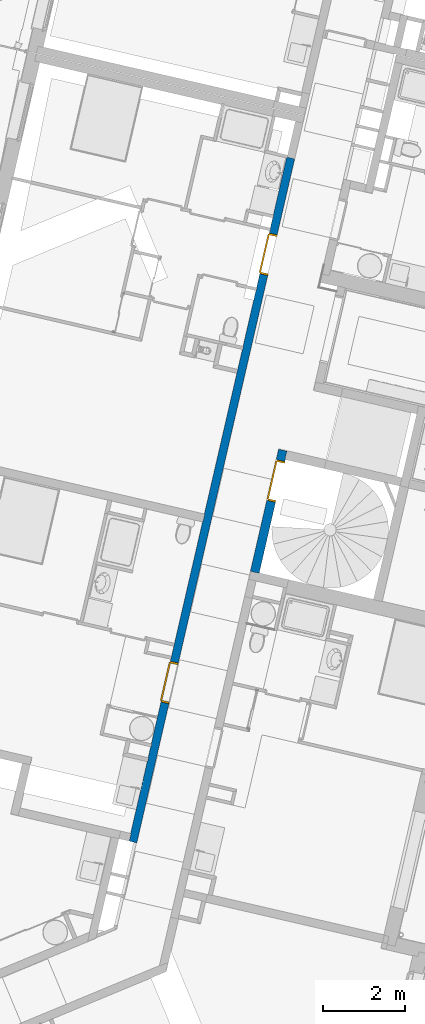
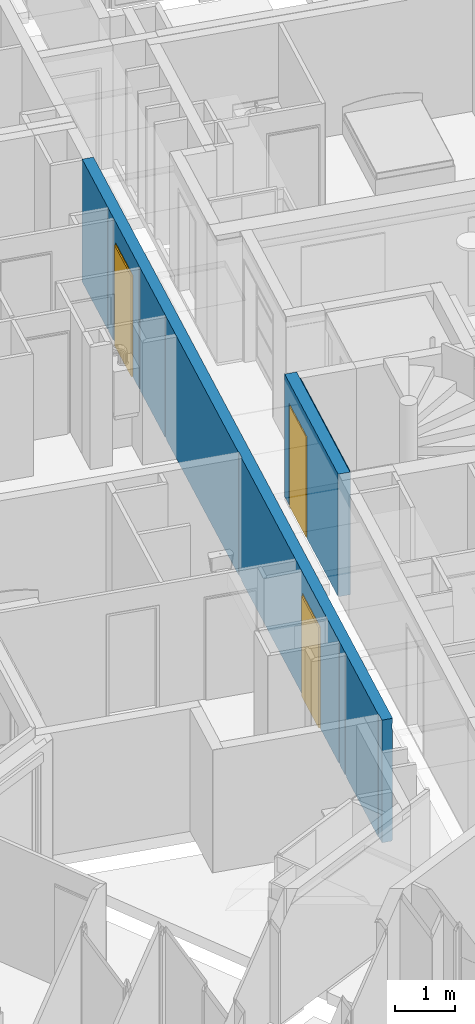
# One storey, part 19 of 119: 3 doors, 2 walls, 3 openings.
"""IFC2X3 building model written with IfcOpenShell, lengths in metres."""

import ifcopenshell
import ifcopenshell.guid

model = None  # the IFC model being written
_history = None  # IfcOwnerHistory: only IFC2X3 demands one
_inside = {}  # id of a spatial element -> (the spatial element, [elements in it])
_under = {}  # id of a project, library or spatial element -> (it, [spatial elements below it])
_declared = {}  # id of a project -> (the project, [libraries it declares])
_typed = {}  # id of a type object -> (the type object, [elements of that type])
_made_of = {}  # id of a material, layer set ... -> (it, [elements and type objects made of it])


def new_model(schema):
    """Start an empty IFC model of exactly this schema.

    Asked for "IFC4X3", IfcOpenShell would pick the latest addendum, in which some entities
    have other attributes; the version numbers below select the first issue.
    IFC2X3 requires an IfcOwnerHistory on every rooted entity: one is made here for all.
    """
    global model, _history
    if schema == "IFC4X3":
        model = ifcopenshell.file(schema_version=(4, 3, 0, 0))
    else:
        model = ifcopenshell.file(schema=schema)
    _inside.clear()
    _under.clear()
    _declared.clear()
    _typed.clear()
    _made_of.clear()
    _history = None
    if model.schema == "IFC2X3":
        org = make("IfcOrganization", Name="unknown")
        user = make(
            "IfcPersonAndOrganization",
            ThePerson=make("IfcPerson", FamilyName="unknown"),
            TheOrganization=org,
        )
        app = make(
            "IfcApplication",
            ApplicationDeveloper=org,
            Version="unknown",
            ApplicationFullName="unknown",
            ApplicationIdentifier="unknown",
        )
        _history = make(
            "IfcOwnerHistory",
            OwningUser=user,
            OwningApplication=app,
            ChangeAction="ADDED",
            CreationDate=0,
        )
    return model


def make(cls, **values):
    """One entity of the class cls with the attributes given. An attribute that is None is left unset."""
    return model.create_entity(
        cls, **{name: value for name, value in values.items() if value is not None}
    )


def entity(cls, *values):
    """Any entity or typed value of the class cls, its attributes in the order of the schema. None: left unset."""
    e = model.create_entity(cls)
    for i, value in enumerate(values):
        if value is not None:
            e[i] = value
    return e


def rooted(cls, **values):
    """An entity with a GlobalId (a new one), such as an element, a storey or a relation."""
    return make(cls, GlobalId=ifcopenshell.guid.new(), OwnerHistory=_history, **values)


def si_unit(unit_type, name, prefix=None):
    """IfcSIUnit, for example si_unit("LENGTHUNIT", "METRE", prefix="MILLI")."""
    return make("IfcSIUnit", UnitType=unit_type, Prefix=prefix, Name=name)


def converted_unit(unit_type, name, factor, base, dimensions=None, offset=None):
    """IfcConversionBasedUnit, such as the inch: factor (a typed value) times the base unit."""
    return make(
        "IfcConversionBasedUnit"
        if offset is None
        else "IfcConversionBasedUnitWithOffset",
        ConversionOffset=offset,
        Dimensions=None
        if dimensions is None
        else entity("IfcDimensionalExponents", *dimensions),
        UnitType=unit_type,
        Name=name,
        ConversionFactor=make(
            "IfcMeasureWithUnit", ValueComponent=factor, UnitComponent=base
        ),
    )


def derived_unit(unit_type, elements):
    """IfcDerivedUnit: a product of units, each with its exponent."""
    return make(
        "IfcDerivedUnit",
        Elements=[
            make("IfcDerivedUnitElement", Unit=unit, Exponent=power)
            for unit, power in elements
        ],
        UnitType=unit_type,
    )


def money_unit(currency):
    """IfcMonetaryUnit."""
    return make("IfcMonetaryUnit", Currency=currency)


def assignment(units):
    """IfcUnitAssignment: the units of a project."""
    return None if units is None else make("IfcUnitAssignment", Units=units)


def point(xyz):
    """IfcCartesianPoint."""
    return None if xyz is None else make("IfcCartesianPoint", Coordinates=xyz)


def direction(xyz):
    """IfcDirection."""
    return None if xyz is None else make("IfcDirection", DirectionRatios=xyz)


def frame(location, z_axis=None, x_axis=None):
    """IfcAxis2Placement3D, a coordinate frame: its origin and axes. An axis left out is left unset."""
    return make(
        "IfcAxis2Placement3D",
        Location=point(location),
        Axis=direction(z_axis),
        RefDirection=direction(x_axis),
    )


def origin_with_axes():
    """The frame at (0, 0, 0) with the z axis (0, 0, 1) and the x axis (1, 0, 0) written out."""
    return frame((0.0, 0.0, 0.0), z_axis=(0.0, 0.0, 1.0), x_axis=(1.0, 0.0, 0.0))


def place(relative_to, where):
    """IfcLocalPlacement: puts the frame where relative to a parent placement (None: the world)."""
    return make(
        "IfcLocalPlacement", PlacementRelTo=relative_to, RelativePlacement=where
    )


def context(
    kind, dimensions, precision=None, world=None, true_north=None, identifier=None
):
    """IfcGeometricRepresentationContext, for example the 3D "Model" context."""
    return make(
        "IfcGeometricRepresentationContext",
        ContextIdentifier=identifier,
        ContextType=kind,
        CoordinateSpaceDimension=dimensions,
        Precision=precision,
        WorldCoordinateSystem=world,
        TrueNorth=true_north,
    )


def subcontext(parent, identifier, kind, view, scale=None):
    """IfcGeometricRepresentationSubContext, for example "Body" below "Model"."""
    return make(
        "IfcGeometricRepresentationSubContext",
        ContextIdentifier=identifier,
        ContextType=kind,
        ParentContext=parent,
        TargetScale=scale,
        TargetView=view,
    )


def project(units=None, contexts=None):
    """IfcProject with its units and contexts."""
    return rooted(
        "IfcProject",
        Name="project",
        RepresentationContexts=contexts,
        UnitsInContext=assignment(units),
    )


def spatial(cls, under=None, at=None, **own):
    """A site, building, storey or space (cls), placed at a placement, below another one or the project."""
    s = rooted(cls, ObjectPlacement=at, **own)
    if under is not None:
        _under.setdefault(under.id(), (under, []))[1].append(s)
    return s


def faces_of(points, faces, orient=None, outer=None):
    """IfcFace entities. A face is a list of loops; a loop is a list of indices into points, from 0.

    orient and outer hold one flag for each loop. By default every Orientation is true, the
    first loop of a face is its IfcFaceOuterBound and the others are IfcFaceBound.
    """
    made = []
    for i, loops in enumerate(faces):
        bounds = []
        for j, loop in enumerate(loops):
            is_outer = j == 0 if outer is None else outer[i][j]
            bounds.append(
                make(
                    "IfcFaceOuterBound" if is_outer else "IfcFaceBound",
                    Bound=make("IfcPolyLoop", Polygon=[points[k] for k in loop]),
                    Orientation=True if orient is None else orient[i][j],
                )
            )
        made.append(make("IfcFace", Bounds=bounds))
    return made


def faceted_brep(points, faces, orient=None, outer=None, voids=None):
    """IfcFacetedBrep: a solid bounded by flat faces; with voids (closed shells), ...WithVoids."""
    shared = [point(p) for p in points]
    hull = make("IfcClosedShell", CfsFaces=faces_of(shared, faces, orient, outer))
    if voids is None:
        return make("IfcFacetedBrep", Outer=hull)
    return make(
        "IfcFacetedBrepWithVoids",
        Outer=hull,
        Voids=[
            make(cls, CfsFaces=faces_of(shared, fs, o, b)) for cls, fs, o, b in voids
        ],
    )


def shape(context_of_items, identifier, shape_type, items):
    """IfcShapeRepresentation: the items that make up one representation, for example the "Body"."""
    return make(
        "IfcShapeRepresentation",
        ContextOfItems=context_of_items,
        RepresentationIdentifier=identifier,
        RepresentationType=shape_type,
        Items=items,
    )


def source(mapping_origin, context_of_items, identifier, shape_type, items):
    """IfcRepresentationMap: a shape defined once, which mapped items show again and again."""
    return make(
        "IfcRepresentationMap",
        MappingOrigin=mapping_origin,
        MappedRepresentation=shape(context_of_items, identifier, shape_type, items),
    )


def transform(
    local_origin,
    x_axis=None,
    y_axis=None,
    z_axis=None,
    scale=None,
    scale2=None,
    scale3=None,
    uniform=True,
):
    """IfcCartesianTransformationOperator3D, or its non-uniform kind. x_axis, y_axis, z_axis: its Axis1, 2, 3."""
    if uniform:
        return make(
            "IfcCartesianTransformationOperator3D",
            Axis1=direction(x_axis),
            Axis2=direction(y_axis),
            LocalOrigin=point(local_origin),
            Scale=scale,
            Axis3=direction(z_axis),
        )
    return make(
        "IfcCartesianTransformationOperator3DnonUniform",
        Axis1=direction(x_axis),
        Axis2=direction(y_axis),
        LocalOrigin=point(local_origin),
        Scale=scale,
        Axis3=direction(z_axis),
        Scale2=scale2,
        Scale3=scale3,
    )


def mapped(mapping_source, mapping_target):
    """IfcMappedItem: shows the shape of a source again, moved by a transform."""
    return make(
        "IfcMappedItem", MappingSource=mapping_source, MappingTarget=mapping_target
    )


def material(Name=None, Category=None):
    """IfcMaterial."""
    return make("IfcMaterial", Name=Name, Category=Category)


def material_list(materials):
    """IfcMaterialList."""
    return make("IfcMaterialList", Materials=materials)


def made_of(thing, what):
    """Note that an element or type object is made of a material, layer set ...; save() writes the relation."""
    if what is not None:
        _made_of.setdefault(what.id(), (what, []))[1].append(thing)
    return thing


def type_object(cls, material=None, **own):
    """A type object (cls), such as IfcWallType, which elements share."""
    return made_of(rooted(cls, **own), material)


def element(
    cls,
    number,
    at=None,
    inside=None,
    cuts=None,
    type_object=None,
    material=None,
    context=None,
    identifier="Body",
    shape_type=None,
    held_by="IfcProductDefinitionShape",
    body=None,
    shapes=None,
    **own,
):
    """One element of the class cls, such as IfcWall. Its Tag is "e" and its number.

    at: its placement. inside: the storey or other place that contains it. cuts: it is an
    opening in that element (IfcRelVoidsElement). A single representation is given by context,
    identifier, shape_type and body (its items); several are given by shapes. held_by: the class
    of the entity that holds the representations. save() writes the other relations.
    """
    e = rooted(cls, Tag="e%d" % number, ObjectPlacement=at, **own)
    if body is not None:
        shapes = [shape(context, identifier, shape_type, body)]
    if shapes is not None:
        e.Representation = make(held_by, Representations=shapes)
    if inside is not None:
        _inside.setdefault(inside.id(), (inside, []))[1].append(e)
    if cuts is not None:
        rooted(
            "IfcRelVoidsElement", RelatingBuildingElement=cuts, RelatedOpeningElement=e
        )
    if type_object is not None:
        _typed.setdefault(type_object.id(), (type_object, []))[1].append(e)
    return made_of(e, material)


def fill(opening, filler):
    """IfcRelFillsElement: the door or window that sits in an opening."""
    return rooted(
        "IfcRelFillsElement",
        RelatingOpeningElement=opening,
        RelatedBuildingElement=filler,
    )


def aggregate(whole, parts):
    """IfcRelAggregates: a whole, such as a stair, and the parts it consists of."""
    return rooted("IfcRelAggregates", RelatingObject=whole, RelatedObjects=parts)


def save(model, path):
    """Write the relations noted so far, then the file.

    IfcRelAggregates (storeys below a building ...), IfcRelContainedInSpatialStructure (elements
    in a storey), IfcRelDefinesByType, IfcRelAssociatesMaterial and IfcRelDeclares: one each for
    every whole, place, type object, material and project.
    """
    for whole, parts in _under.values():
        aggregate(whole, parts)
    for where, things in _inside.values():
        rooted(
            "IfcRelContainedInSpatialStructure",
            RelatedElements=things,
            RelatingStructure=where,
        )
    for kind, things in _typed.values():
        rooted("IfcRelDefinesByType", RelatedObjects=things, RelatingType=kind)
    for what, things in _made_of.values():
        rooted("IfcRelAssociatesMaterial", RelatedObjects=things, RelatingMaterial=what)
    for by, libraries in _declared.values():
        rooted("IfcRelDeclares", RelatingContext=by, RelatedDefinitions=libraries)
    model.write(path)


model = new_model("IFC2X3")

# Units and contexts
model_context = context("Model", 3, precision=1e-05, world=origin_with_axes(), true_north=direction((0.0, 1.0)))
body_context = subcontext(model_context, "Body", "Model", "MODEL_VIEW")
ifc_project = project(units=[si_unit("LENGTHUNIT", "METRE"), si_unit("AREAUNIT", "SQUARE_METRE"), si_unit("VOLUMEUNIT", "CUBIC_METRE"), converted_unit("PLANEANGLEUNIT", "DEGREE", entity("IfcPlaneAngleMeasure", 0.0174532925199), si_unit("PLANEANGLEUNIT", "RADIAN"), dimensions=[0, 0, 0, 0, 0, 0, 0]), si_unit("SOLIDANGLEUNIT", "STERADIAN"), money_unit("EUR"), converted_unit("TIMEUNIT", "Year", entity("IfcTimeMeasure", 31556926.0), si_unit("TIMEUNIT", "SECOND"), dimensions=[0, 0, 1, 0, 0, 0, 0]), si_unit("MASSUNIT", "GRAM", prefix="KILO"), si_unit("THERMODYNAMICTEMPERATUREUNIT", "DEGREE_CELSIUS"), si_unit("LUMINOUSINTENSITYUNIT", "LUMEN"), si_unit("ENERGYUNIT", "JOULE", prefix="MEGA"), derived_unit("THERMALCONDUCTANCEUNIT", [(si_unit("POWERUNIT", "WATT"), 1), (si_unit("LENGTHUNIT", "METRE"), -1), (si_unit("THERMODYNAMICTEMPERATUREUNIT", "KELVIN"), -1)]), derived_unit("SPECIFICHEATCAPACITYUNIT", [(si_unit("ENERGYUNIT", "JOULE"), 1), (si_unit("MASSUNIT", "GRAM", prefix="KILO"), -1), (si_unit("THERMODYNAMICTEMPERATUREUNIT", "KELVIN"), -1)]), derived_unit("MASSDENSITYUNIT", [(si_unit("MASSUNIT", "GRAM", prefix="KILO"), 1), (si_unit("VOLUMEUNIT", "CUBIC_METRE"), -1)])], contexts=[model_context])

# Site, building, storey
site_placement = place(None, origin_with_axes())
site = spatial("IfcSite", under=ifc_project, at=site_placement, Name="Site", CompositionType="ELEMENT")
building_placement = place(site_placement, origin_with_axes())
building = spatial("IfcBuilding", under=site, at=building_placement, Name="Bâtiment", CompositionType="ELEMENT")
storey_placement = place(building_placement, origin_with_axes())
storey = spatial("IfcBuildingStorey", under=building, at=storey_placement, Name="Rez-de-chaussée", CompositionType="ELEMENT", Elevation=0.0)

# Wall, openings, doors
ifc_material_1 = material(Name="Finition int - Enduit plâtre")
ifc_material_2 = material(Name="Béton")
ifc_material_list = material_list([ifc_material_1, ifc_material_2, ifc_material_1])
wall_type_1 = type_object("IfcWallType", Name="2 - Murs Béton 18 + Enduit 2 Faces 200", PredefinedType="USERDEFINED")
wall_1_placement = place(storey_placement, frame((-10.404385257, 1.37535274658, 0.0), z_axis=(0.0, 0.0, 1.0), x_axis=(-0.22487619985, -0.974387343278, 0.0)))
wall_1 = element("IfcWall", 1, at=wall_1_placement, inside=storey, type_object=wall_type_1, material=ifc_material_list, Name="M_Ext-009", ObjectType="SOLIDWALL", context=body_context, shape_type="Brep", body=[
    faceted_brep([(2.92382101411, 0.01, 0.02), (2.92382101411, 0.01, 2.085), (1.90382101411, 0.01, 2.085), (1.90382101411, 0.01, 0.02), (0.0, 0.01, 0.02), (0.0, 0.01, 2.287), (17.1471355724, 0.01, 2.287), (17.1471355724, 0.01, 0.150000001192), (17.1471355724, 0.01, 0.02), (13.6591355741, 0.01, 0.02), (13.6591355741, 0.01, 2.085), (12.6391355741, 0.01, 2.085), (12.6391355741, 0.01, 0.02), (2.92382101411, 2.43194619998e-09, 0.02), (2.92382101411, 2.74334333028e-09, 2.085), (1.90382101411, 2.74334333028e-09, 2.085), (1.90382101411, 2.54057930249e-09, 0.02), (0.0, 2.74334333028e-09, 0.02), (0.0, 0.0, 2.287), (17.1471355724, 6.19118978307e-10, 2.287), (17.1471355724, 0.0, 0.150000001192), (17.1471355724, 9.1710639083e-10, 0.02), (13.6591355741, 1.2885941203e-09, 0.02), (13.6591355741, 2.74334155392e-09, 2.085), (12.6391355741, 2.74334333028e-09, 2.085), (12.6391355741, 1.39722722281e-09, 0.02)], [[[0, 1, 2, 3, 4, 5, 6, 7, 8, 9, 10, 11, 12]], [[1, 0, 13, 14]], [[2, 1, 14, 15]], [[3, 2, 15, 16]], [[3, 16, 17, 4]], [[18, 5, 4, 17]], [[18, 19, 6, 5]], [[20, 7, 6, 19]], [[7, 20, 21, 8]], [[9, 8, 21, 22]], [[9, 22, 23, 10]], [[10, 23, 24, 11]], [[11, 24, 25, 12]], [[13, 0, 12, 25]], [[14, 13, 25, 24, 23, 22, 21, 20, 19, 18, 17, 16, 15]]]),
    faceted_brep([(0.0, 0.0, 2.51), (0.0, 0.01, 2.51), (0.0, 0.01, 2.4), (0.0, 0.0, 2.4), (17.1471355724, 0.01, 2.51), (17.1471355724, 0.0, 2.51), (17.1471355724, 0.01, 2.4), (17.1471355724, 6.19118978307e-10, 2.4)], [[[0, 1, 2, 3]], [[4, 1, 0, 5]], [[1, 4, 6, 2]], [[3, 2, 6, 7]], [[5, 0, 3, 7]], [[4, 5, 7, 6]]]),
    faceted_brep([(2.92382101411, 0.0, 0.0), (2.92382101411, 0.0, 2.085), (1.90382101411, 0.0, 2.085), (1.90382101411, 0.0, 0.0), (0.0, 0.0, 0.0), (0.0, 0.0, 2.51), (17.1471355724, 0.0, 2.51), (17.1471355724, 0.0, 0.150000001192), (17.1471355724, 0.0, 0.0), (13.6591355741, 0.0, 0.0), (13.6591355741, 0.0, 2.085), (12.6391355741, 0.0, 2.085), (12.6391355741, 0.0, 0.0), (2.92382101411, -0.18, 0.0), (2.92382101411, -0.18, 2.085), (1.90382101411, -0.18, 2.085), (1.90382101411, -0.18, 0.0), (0.0, -0.18, 0.0), (0.0, -0.18, 2.51), (17.1471355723, -0.18, 2.51), (17.1471355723, -0.18, 0.150000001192), (17.1471355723, -0.18, 0.0), (13.6591355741, -0.18, 0.0), (13.6591355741, -0.18, 2.085), (12.6391355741, -0.18, 2.085), (12.6391355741, -0.18, 0.0)], [[[0, 1, 2, 3, 4, 5, 6, 7, 8, 9, 10, 11, 12]], [[1, 0, 13, 14]], [[2, 1, 14, 15]], [[3, 2, 15, 16]], [[3, 16, 17, 4]], [[4, 17, 18, 5]], [[18, 19, 6, 5]], [[20, 7, 6, 19]], [[8, 7, 20, 21]], [[9, 8, 21, 22]], [[9, 22, 23, 10]], [[10, 23, 24, 11]], [[11, 24, 25, 12]], [[13, 0, 12, 25]], [[14, 13, 25, 24, 23, 22, 21, 20, 19, 18, 17, 16, 15]]]),
    faceted_brep([(2.92382101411, -0.18, 0.0), (2.92382101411, -0.18, 2.085), (1.90382101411, -0.18, 2.085), (1.90382101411, -0.18, 0.0), (1.84846721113, -0.18, 0.0), (1.84846721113, -0.18, 2.5), (1.77446721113, -0.18, 2.5), (1.77446721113, -0.18, 0.0), (1.52446720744, -0.18, 0.0), (1.52446720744, -0.18, 2.5), (1.45046720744, -0.18, 2.5), (1.45046720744, -0.18, 0.0), (0.0, -0.18, 0.0), (0.0, -0.18, 2.51), (8.95713557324, -0.18, 2.51), (8.95713557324, -0.18, 0.0), (4.82184246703, -0.18, 0.0), (4.82184246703, -0.18, 2.5), (4.74784246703, -0.18, 2.5), (4.74784246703, -0.18, 0.0), (3.34784246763, -0.18, 0.0), (3.34784246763, -0.18, 2.5), (3.27384246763, -0.18, 2.5), (3.27384246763, -0.18, 0.0), (2.92382101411, -0.19, 0.0), (2.92382101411, -0.19, 2.085), (1.90382101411, -0.19, 2.085), (1.90382101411, -0.19, 0.0), (1.84846721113, -0.19, 0.0), (1.84846721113, -0.19, 2.5), (1.77446721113, -0.19, 2.5), (1.77446721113, -0.19, 0.0), (1.52446720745, -0.19, 0.0), (1.52446720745, -0.19, 2.5), (1.45046720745, -0.19, 2.5), (1.45046720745, -0.19, 0.0), (0.0, -0.19, 0.0), (0.0, -0.19, 2.51), (8.95713557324, -0.19, 2.51), (8.95713557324, -0.19, 0.0), (4.82184246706, -0.19, 0.0), (4.82184246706, -0.19, 2.5), (4.74784246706, -0.19, 2.5), (4.74784246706, -0.19, 0.0), (3.34784246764, -0.19, 0.0), (3.34784246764, -0.19, 2.5), (3.27384246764, -0.19, 2.5), (3.27384246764, -0.19, 0.0)], [[[0, 1, 2, 3, 4, 5, 6, 7, 8, 9, 10, 11, 12, 13, 14, 15, 16, 17, 18, 19, 20, 21, 22, 23]], [[1, 0, 24, 25]], [[2, 1, 25, 26]], [[3, 2, 26, 27]], [[3, 27, 28, 4]], [[5, 4, 28, 29]], [[5, 29, 30, 6]], [[7, 6, 30, 31]], [[32, 8, 7, 31]], [[9, 8, 32, 33]], [[9, 33, 34, 10]], [[11, 10, 34, 35]], [[11, 35, 36, 12]], [[13, 12, 36, 37]], [[13, 37, 38, 14]], [[38, 39, 15, 14]], [[40, 16, 15, 39]], [[17, 16, 40, 41]], [[17, 41, 42, 18]], [[19, 18, 42, 43]], [[19, 43, 44, 20]], [[21, 20, 44, 45]], [[21, 45, 46, 22]], [[23, 22, 46, 47]], [[24, 0, 23, 47]], [[25, 24, 47, 46, 45, 44, 43, 42, 41, 40, 39, 38, 37, 36, 35, 34, 33, 32, 31, 30, 29, 28, 27, 26]]]),
    faceted_brep([(13.6591355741, -0.18, 0.0), (13.6591355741, -0.18, 2.085), (12.6391355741, -0.18, 2.085), (12.6391355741, -0.18, 0.0), (9.13713557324, -0.18, 0.0), (9.13713557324, -0.18, 2.51), (16.9671355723, -0.18, 2.51), (16.9671355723, -0.18, 0.0), (15.1571355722, -0.18, 0.0), (15.1571355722, -0.18, 2.5), (15.0571355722, -0.18, 2.5), (15.0571355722, -0.18, 0.0), (14.7831355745, -0.18, 0.0), (14.7831355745, -0.18, 2.5), (14.7091355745, -0.18, 2.5), (14.7091355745, -0.18, 0.0), (13.6591355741, -0.19, 0.0), (13.6591355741, -0.19, 2.085), (12.6391355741, -0.19, 2.085), (12.6391355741, -0.19, 0.0), (9.13713557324, -0.19, 0.0), (9.13713557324, -0.19, 2.51), (16.9671355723, -0.19, 2.51), (16.9671355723, -0.19, 0.0), (15.1571355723, -0.19, 0.0), (15.1571355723, -0.19, 2.5), (15.0571355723, -0.19, 2.5), (15.0571355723, -0.19, 0.0), (14.7831355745, -0.19, 0.0), (14.7831355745, -0.19, 2.5), (14.7091355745, -0.19, 2.5), (14.7091355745, -0.19, 0.0)], [[[0, 1, 2, 3, 4, 5, 6, 7, 8, 9, 10, 11, 12, 13, 14, 15]], [[1, 0, 16, 17]], [[2, 1, 17, 18]], [[3, 2, 18, 19]], [[3, 19, 20, 4]], [[5, 4, 20, 21]], [[5, 21, 22, 6]], [[22, 23, 7, 6]], [[7, 23, 24, 8]], [[9, 8, 24, 25]], [[9, 25, 26, 10]], [[11, 10, 26, 27]], [[28, 12, 11, 27]], [[13, 12, 28, 29]], [[13, 29, 30, 14]], [[15, 14, 30, 31]], [[16, 0, 15, 31]], [[17, 16, 31, 30, 29, 28, 27, 26, 25, 24, 23, 22, 21, 20, 19, 18]]]),
])
opening_1_placement = place(wall_1_placement, frame((13.1491355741, 0.0, 0.0), z_axis=(0.0, 0.0, 1.0), x_axis=(1.0, 0.0, 0.0)))
opening_1 = element("IfcOpeningElement", 2, at=opening_1_placement, cuts=wall_1, Name="Porte 93x204 bois blindée", context=body_context, shape_type="Brep", body=[
    faceted_brep([(-0.51, 0.2, 0.0), (0.51, 0.2, 0.0), (0.51, -0.2, 0.0), (-0.51, -0.2, 0.0), (-0.51, 0.2, 2.085), (0.51, 0.2, 2.085), (0.51, -0.2, 2.085), (-0.51, -0.2, 2.085)], [[[0, 1, 2, 3]], [[0, 4, 5, 1]], [[1, 5, 6, 2]], [[3, 2, 6, 7]], [[4, 0, 3, 7]], [[5, 4, 7, 6]]]),
])
opening_2_placement = place(wall_1_placement, frame((2.41382101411, 0.0, 0.0), z_axis=(0.0, 0.0, 1.0), x_axis=(1.0, 0.0, 0.0)))
opening_2 = element("IfcOpeningElement", 3, at=opening_2_placement, cuts=wall_1, Name="Porte 93x204 bois blindée", context=body_context, shape_type="Brep", body=[
    faceted_brep([(-0.51, 0.2, 0.0), (0.51, 0.2, 0.0), (0.51, -0.2, 0.0), (-0.51, -0.2, 0.0), (-0.51, 0.2, 2.085), (0.51, 0.2, 2.085), (0.51, -0.2, 2.085), (-0.51, -0.2, 2.085)], [[[0, 1, 2, 3]], [[0, 4, 5, 1]], [[1, 5, 6, 2]], [[3, 2, 6, 7]], [[4, 0, 3, 7]], [[5, 4, 7, 6]]]),
])
door_style_1 = type_object("IfcDoorStyle", Name="Porte int générique 2019", ConstructionType="NOTDEFINED", OperationType="SINGLE_SWING_RIGHT", ParameterTakesPrecedence=False, Sizeable=False)
shared_shape_1 = source(origin_with_axes(), body_context, "Body", "Brep", [
    faceted_brep([(0.51, 0.0, 0.0), (0.48, 0.0, 0.0), (0.48, 0.0, 2.055), (-0.48, 0.0, 2.055), (-0.48, 0.0, 0.0), (-0.51, 0.0, 0.0), (-0.51, 0.0, 2.085), (0.51, 0.0, 2.085), (0.51, -0.2, 0.0), (0.465, -0.2, 0.0), (0.465, -0.015, 0.0), (0.48, -0.015, 0.0), (0.48, -0.015, 2.055), (-0.48, -0.015, 2.055), (-0.48, -0.015, 0.0), (-0.465, -0.015, 0.0), (-0.465, -0.2, 0.0), (-0.51, -0.2, 0.0), (-0.51, -0.2, 2.085), (0.51, -0.2, 2.085), (-0.465, -0.2, 2.04), (0.465, -0.2, 2.04), (0.465, -0.015, 2.04), (-0.465, -0.015, 2.04)], [[[0, 1, 2, 3, 4, 5, 6, 7]], [[0, 8, 9, 10, 11, 1]], [[1, 11, 12, 2]], [[2, 12, 13, 3]], [[3, 13, 14, 4]], [[5, 4, 14, 15, 16, 17]], [[18, 6, 5, 17]], [[19, 7, 6, 18]], [[8, 0, 7, 19]], [[9, 8, 19, 18, 17, 16, 20, 21]], [[10, 9, 21, 22]], [[11, 10, 22, 23, 15, 14, 13, 12]], [[23, 20, 16, 15]], [[22, 21, 20, 23]]]),
    faceted_brep([(0.48, 0.025, 0.0), (0.48, -0.015, 0.0), (-0.48, -0.015, 0.0), (-0.48, 0.025, 0.0), (0.48, 0.025, 2.055), (0.48, -0.015, 2.055), (-0.48, -0.015, 2.055), (-0.48, 0.025, 2.055)], [[[0, 1, 2, 3]], [[4, 5, 1, 0]], [[1, 5, 6, 2]], [[3, 2, 6, 7]], [[0, 3, 7, 4]], [[7, 6, 5, 4]]]),
])
door_1_placement = place(opening_1_placement, frame((0.465, 0.0, 0.0), z_axis=(0.0, 0.0, 1.0), x_axis=(-1.0, 0.0, 0.0)))
door_1 = element("IfcDoor", 4, at=door_1_placement, inside=storey, type_object=door_style_1, Name="Porte 93x204 bois blindée", ObjectType="DOOR", OverallHeight=2.04, OverallWidth=0.93, context=body_context, shape_type="MappedRepresentation", body=[
    mapped(shared_shape_1, transform((0.465, 0.19, 0.0))),
])
fill(opening_1, door_1)
door_2_placement = place(opening_2_placement, frame((0.465, 0.0, 0.0), z_axis=(0.0, 0.0, 1.0), x_axis=(-1.0, 0.0, 0.0)))
door_2 = element("IfcDoor", 5, at=door_2_placement, inside=storey, type_object=door_style_1, Name="Porte 93x204 bois blindée", ObjectType="DOOR", OverallHeight=2.04, OverallWidth=0.93, context=body_context, shape_type="MappedRepresentation", body=[
    mapped(shared_shape_1, transform((0.465, 0.19, 0.0))),
])
fill(opening_2, door_2)

# Wall, opening, door
wall_type_2 = type_object("IfcWallType", Name="2 - Murs Béton 20 + Enduit 2 Faces  220", PredefinedType="USERDEFINED")
wall_2_placement = place(storey_placement, frame((-10.7747392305, -5.7212996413, 0.0), z_axis=(0.0, 0.0, 1.0), x_axis=(-0.224876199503, -0.974387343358, 0.0)))
wall_2 = element("IfcWall", 6, at=wall_2_placement, inside=storey, type_object=wall_type_2, material=ifc_material_list, Name="M_Ext-009", ObjectType="SOLIDWALL", context=body_context, shape_type="Brep", body=[
    faceted_brep([(1.28000000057, 0.205, 0.0), (1.28000000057, 0.205, 2.085), (0.260000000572, 0.205, 2.085), (0.260000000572, 0.205, 0.0), (0.200000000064, 0.205, 0.0), (0.200000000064, 0.205, 2.52), (3.04999999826, 0.205, 2.52), (3.04999999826, 0.205, 0.0), (1.28000000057, 0.195, 0.0), (1.28000000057, 0.195, 2.085), (0.260000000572, 0.195, 2.085), (0.260000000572, 0.195, 0.0), (0.200000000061, 0.195, 0.0), (0.200000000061, 0.195, 2.52), (3.04999999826, 0.195, 2.52), (3.04999999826, 0.195, 0.0)], [[[0, 1, 2, 3, 4, 5, 6, 7]], [[1, 0, 8, 9]], [[2, 1, 9, 10]], [[3, 2, 10, 11]], [[3, 11, 12, 4]], [[4, 12, 13, 5]], [[6, 5, 13, 14]], [[7, 6, 14, 15]], [[8, 0, 7, 15]], [[9, 8, 15, 14, 13, 12, 11, 10]]]),
    faceted_brep([(1.28000000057, 0.195, 0.0), (1.28000000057, 0.19500000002, 2.085), (0.260000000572, 0.19500000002, 2.085), (0.260000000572, 0.195, 0.0), (0.0, 0.195, 0.0), (0.0, 0.195, 2.51), (0.199999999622, 0.19500000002, 2.51), (3.06000000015, 0.194999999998, 2.51), (3.05999999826, 0.195, 0.0), (1.28000000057, -0.005, 0.0), (1.28000000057, -0.005, 2.085), (0.260000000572, -0.005, 2.085), (0.260000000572, -0.005, 0.0), (0.0, -0.005, 0.0), (0.0, -0.005, 2.51), (3.05999999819, -0.005, 2.51), (3.05999999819, -0.005, 0.0)], [[[0, 1, 2, 3, 4, 5, 6, 7, 8]], [[1, 0, 9, 10]], [[2, 1, 10, 11]], [[3, 2, 11, 12]], [[3, 12, 13, 4]], [[5, 4, 13, 14]], [[14, 15, 7, 6, 5]], [[15, 16, 8, 7]], [[9, 0, 8, 16]], [[10, 9, 16, 15, 14, 13, 12, 11]]]),
    faceted_brep([(1.28000000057, -0.005, 0.0), (1.28000000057, -0.005, 2.085), (0.260000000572, -0.005, 2.085), (0.260000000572, -0.005, 0.0), (-0.0100000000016, -0.005, 0.0), (-0.0100000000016, -0.005, 2.287), (-0.00333333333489, -0.005, 2.287), (-0.00333333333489, -0.005, 2.4), (-0.0100000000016, -0.005, 2.4), (-0.0100000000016, -0.005, 2.51), (3.04999999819, -0.005, 2.51), (3.04999999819, -0.005, 0.0), (1.28000000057, -0.0150000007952, 0.0), (1.28000000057, -0.0150000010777, 2.085), (0.260000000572, -0.0150000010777, 2.085), (0.260000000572, -0.0150000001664, 0.0), (-0.0100000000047, -0.015, 0.0), (-0.0100000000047, -0.015, 2.287), (-0.0100000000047, -0.015, 2.4), (-0.0100000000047, -0.015, 2.51), (3.04999999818, -0.015, 2.51), (3.04999999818, -0.015, 0.02), (3.04999999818, -0.0138305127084, 0.02), (3.04999999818, -0.0138305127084, 0.0), (1.73831579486, -0.0150000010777, 0.0), (1.73831579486, -0.0150000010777, 0.02)], [[[0, 1, 2, 3, 4, 5, 6, 7, 8, 9, 10, 11]], [[1, 0, 12, 13]], [[2, 1, 13, 14]], [[3, 2, 14, 15]], [[3, 15, 16, 4]], [[5, 4, 16, 17]], [[6, 5, 17]], [[7, 6, 17, 18]], [[18, 8, 7]], [[9, 8, 18, 19]], [[9, 19, 20, 10]], [[10, 20, 21, 22, 23, 11]], [[12, 0, 11, 23, 24]], [[13, 12, 24, 25, 21, 20, 19, 18, 17, 16, 15, 14]], [[21, 25, 22]], [[25, 24, 23, 22]]]),
])
opening_3_placement = place(wall_2_placement, frame((0.770000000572, 0.0, 0.0), z_axis=(0.0, 0.0, 1.0), x_axis=(1.0, 0.0, 0.0)))
opening_3 = element("IfcOpeningElement", 7, at=opening_3_placement, cuts=wall_2, Name="Porte 93x204 bois CF", context=body_context, shape_type="Brep", body=[
    faceted_brep([(0.51, -0.22, 0.0), (-0.51, -0.22, 0.0), (-0.51, 0.22, 0.0), (0.51, 0.22, 0.0), (0.51, -0.22, 2.085), (-0.51, -0.22, 2.085), (-0.51, 0.22, 2.085), (0.51, 0.22, 2.085)], [[[0, 1, 2, 3]], [[0, 4, 5, 1]], [[1, 5, 6, 2]], [[3, 2, 6, 7]], [[4, 0, 3, 7]], [[5, 4, 7, 6]]]),
])
door_style_2 = type_object("IfcDoorStyle", Name="Porte int générique 2019", ConstructionType="NOTDEFINED", OperationType="SINGLE_SWING_LEFT", ParameterTakesPrecedence=False, Sizeable=False)
shared_shape_2 = source(origin_with_axes(), body_context, "Body", "Brep", [
    faceted_brep([(-0.51, 0.0, 0.0), (-0.51, 0.0, 2.085), (0.51, 0.0, 2.085), (0.51, 0.0, 0.0), (0.48, 0.0, 0.0), (0.48, 0.0, 2.055), (-0.48, 0.0, 2.055), (-0.48, 0.0, 0.0), (-0.51, -0.2, 0.0), (-0.51, -0.2, 2.085), (0.51, -0.2, 2.085), (0.51, -0.2, 0.0), (0.465, -0.2, 0.0), (0.465, -0.015, 0.0), (0.48, -0.015, 0.0), (0.48, -0.015, 2.055), (-0.48, -0.015, 2.055), (-0.48, -0.015, 0.0), (-0.465, -0.015, 0.0), (-0.465, -0.2, 0.0), (-0.465, -0.2, 2.04), (0.465, -0.2, 2.04), (0.465, -0.015, 2.04), (-0.465, -0.015, 2.04)], [[[0, 1, 2, 3, 4, 5, 6, 7]], [[8, 9, 1, 0]], [[9, 10, 2, 1]], [[10, 11, 3, 2]], [[3, 11, 12, 13, 14, 4]], [[5, 4, 14, 15]], [[6, 5, 15, 16]], [[7, 6, 16, 17]], [[0, 7, 17, 18, 19, 8]], [[19, 20, 21, 12, 11, 10, 9, 8]], [[22, 13, 12, 21]], [[17, 16, 15, 14, 13, 22, 23, 18]], [[18, 23, 20, 19]], [[23, 22, 21, 20]]]),
    faceted_brep([(-0.48, 0.025, 0.0), (0.48, 0.025, 0.0), (0.48, -0.015, 0.0), (-0.48, -0.015, 0.0), (-0.48, 0.025, 2.055), (0.48, 0.025, 2.055), (0.48, -0.015, 2.055), (-0.48, -0.015, 2.055)], [[[0, 1, 2, 3]], [[0, 4, 5, 1]], [[1, 5, 6, 2]], [[3, 2, 6, 7]], [[4, 0, 3, 7]], [[5, 4, 7, 6]]]),
])
door_3_placement = place(opening_3_placement, frame((0.465, 0.0, 0.0), z_axis=(0.0, 0.0, 1.0), x_axis=(-1.0, 0.0, 0.0)))
door_3 = element("IfcDoor", 8, at=door_3_placement, inside=storey, type_object=door_style_2, Name="Porte 93x204 bois CF", ObjectType="DOOR", OverallHeight=2.04, OverallWidth=0.93, context=body_context, shape_type="MappedRepresentation", body=[
    mapped(shared_shape_2, transform((0.465, -0.005, 0.0))),
])
fill(opening_3, door_3)

save(model, "model.ifc")
